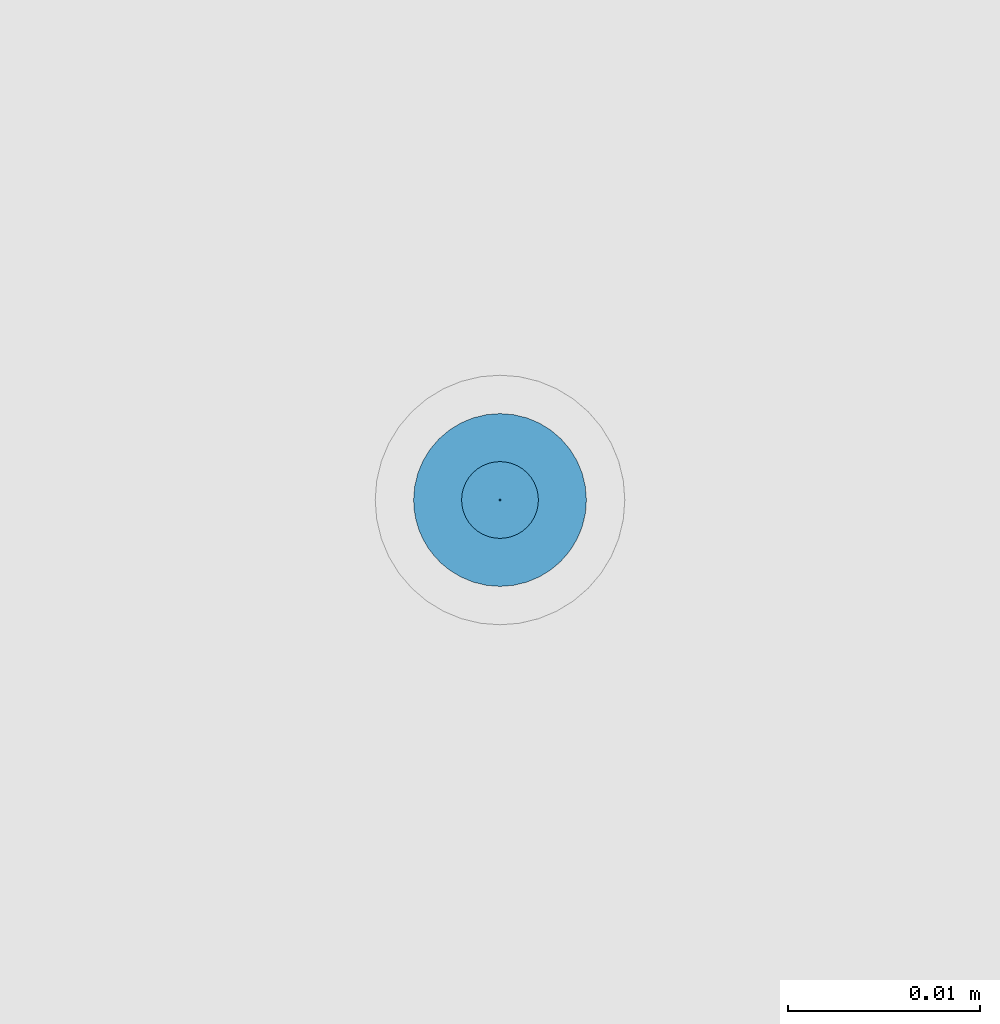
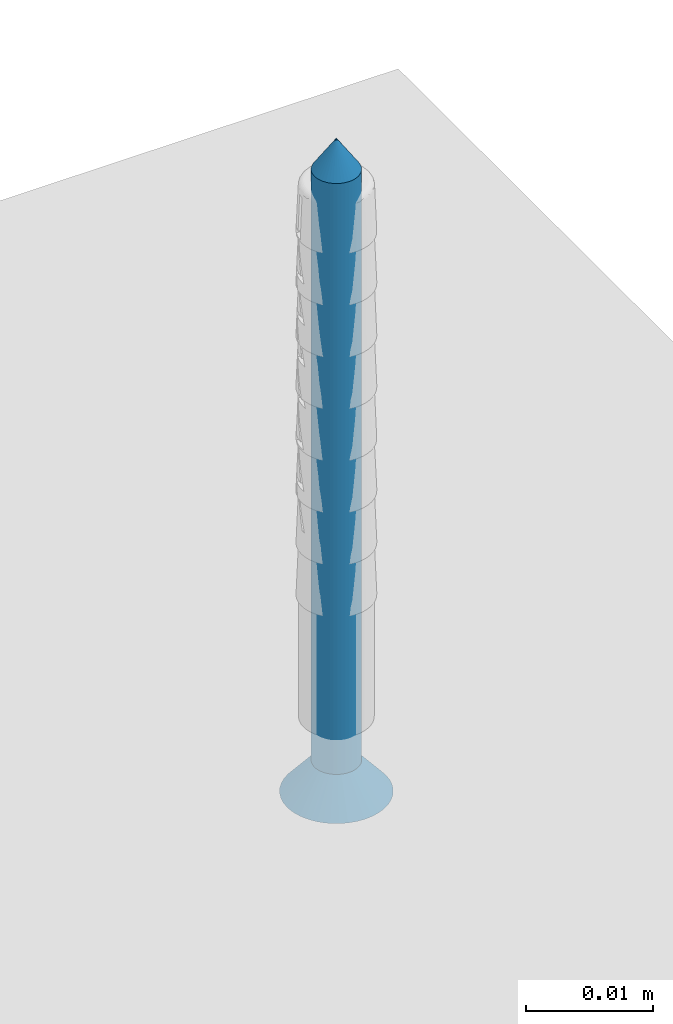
# One storey, part 68 of 92: 1 wall.
"""IFC2X3 building model written with IfcOpenShell, lengths in millimetres."""

from ifc_helpers import new_model, si_unit, frame, origin_with_axes, place, context, subcontext, project, spatial, faceted_brep, material, type_object, element, save


model = new_model("IFC2X3")

# Units and contexts
model_context = context("Model", 3, world=origin_with_axes())
body_context = subcontext(model_context, "Body", "Model", "MODEL_VIEW")
ifc_project = project(units=[si_unit("LENGTHUNIT", "METRE", prefix="MILLI"), si_unit("AREAUNIT", "SQUARE_METRE"), si_unit("VOLUMEUNIT", "CUBIC_METRE")], contexts=[model_context])

# Site, building, storey
site_placement = place(None, origin_with_axes())
site = spatial("IfcSite", under=ifc_project, at=site_placement, Name="Default Site", CompositionType="ELEMENT")
building_placement = place(site_placement, origin_with_axes())
building = spatial("IfcBuilding", under=site, at=building_placement, Name="Default Building", CompositionType="ELEMENT")
storey_placement = place(building_placement, origin_with_axes())
storey = spatial("IfcBuildingStorey", under=building, at=storey_placement, Name="Default Building Storey", CompositionType="ELEMENT", Elevation=0.0)

# Wall
ifc_material = material(Name="Default")
wall_type = type_object("IfcWallType", Name="Kołek rozporowy min. fi 6", PredefinedType="NOTDEFINED")
wall_placement = place(storey_placement, frame((3530.2813105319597, 3055.5457902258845, 2570.0054142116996), z_axis=(5.273559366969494e-16, -2.122374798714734e-31, -1.0), x_axis=(4.0245584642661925e-16, 1.0, 0.0)))
element("IfcWall", 1, at=wall_placement, inside=storey, type_object=wall_type, material=ifc_material, Name="Kołek rozporowy min. fi 6", context=body_context, shape_type="Brep", body=[
    faceted_brep([(-1438.2587671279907, -3452.579259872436, -0.46425670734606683), (-1435.7895851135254, -3452.970266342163, -3.464256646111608), (-1435.8141422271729, -3453.2833099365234, -3.464256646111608), (-1438.3141994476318, -3453.2833099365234, -0.46425670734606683), (-1438.093900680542, -3451.892614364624, -0.46425670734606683), (-1435.7162714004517, -3452.6650905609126, -3.464256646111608), (-1437.8236532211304, -3451.240301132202, -0.46425670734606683), (-1435.5961084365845, -3452.3751735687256, -3.464256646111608), (-1437.4547004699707, -3450.6382942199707, -0.46425670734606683), (-1435.4321956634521, -3452.107667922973, -3.464256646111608), (-1436.9961023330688, -3450.101137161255, -0.46425670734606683), (-1435.22834777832, -3451.8690109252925, -3.464256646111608), (-1436.4591836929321, -3449.642658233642, -0.46425670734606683), (-1434.9896907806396, -3451.665163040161, -3.464256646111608), (-1435.8570575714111, -3449.2735862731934, -0.46425670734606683), (-1434.7221851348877, -3451.501131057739, -3.464256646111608), (-1435.2047443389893, -3449.0034580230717, -0.46425670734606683), (-1434.4321489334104, -3451.381206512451, -3.464256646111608), (-1434.5180988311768, -3448.838710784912, -0.46425670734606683), (-1434.1269731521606, -3451.307773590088, -3.464256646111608), (-1433.8141679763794, -3448.7831592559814, -0.46425670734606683), (-1433.8141679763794, -3451.28321647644, -3.464256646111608), (-1433.110237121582, -3448.838710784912, -0.46425670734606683), (-1433.5012435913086, -3451.307773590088, -3.464256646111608), (-1432.4235916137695, -3449.0034580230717, -0.46425670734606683), (-1433.1960678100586, -3451.381206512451, -3.464256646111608), (-1431.771159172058, -3449.2735862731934, -0.46425670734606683), (-1432.9061508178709, -3451.501131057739, -3.464256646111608), (-1431.1691522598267, -3449.642658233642, -0.46425670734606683), (-1432.6385259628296, -3451.665163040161, -3.464256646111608), (-1430.6321144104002, -3450.101137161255, -0.46425670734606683), (-1432.3999881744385, -3451.8690109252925, -3.464256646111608), (-1430.1735162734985, -3450.6382942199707, -0.46425670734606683), (-1432.1961402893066, -3452.107667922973, -3.464256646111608), (-1429.8045635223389, -3451.240301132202, -0.46425670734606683), (-1432.0321083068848, -3452.3751735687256, -3.464256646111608), (-1429.5344352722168, -3451.892614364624, -0.46425670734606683), (-1431.9120645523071, -3452.6650905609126, -3.464256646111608), (-1431.814193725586, -3453.2833099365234, -3.464256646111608), (-1429.314136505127, -3453.2833099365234, -0.46425670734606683), (-1429.369568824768, -3453.9871215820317, -0.46425670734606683), (-1431.8387508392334, -3453.5961151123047, -3.464256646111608), (-1431.8387508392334, -3452.970266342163, -3.464256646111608), (-1429.369568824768, -3452.579259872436, -0.46425670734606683), (-1429.5344352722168, -3454.6737670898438, -0.46425670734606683), (-1431.9120645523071, -3453.9012908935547, -3.464256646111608), (-1429.8045635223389, -3455.3260803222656, -0.46425670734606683), (-1432.0321083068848, -3454.191207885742, -3.464256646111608), (-1430.1735162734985, -3455.9283256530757, -0.46425670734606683), (-1432.1961402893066, -3454.458713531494, -3.464256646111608), (-1430.6321144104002, -3456.465244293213, -0.46425670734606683), (-1432.3999881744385, -3454.6973705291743, -3.464256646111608), (-1431.1691522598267, -3456.923723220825, -0.46425670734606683), (-1432.6385259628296, -3454.9012184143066, -3.464256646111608), (-1431.771159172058, -3457.2927951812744, -0.46425670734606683), (-1432.9061508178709, -3455.065250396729, -3.464256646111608), (-1432.4235916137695, -3457.562923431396, -0.46425670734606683), (-1433.1960678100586, -3455.1854133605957, -3.464256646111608), (-1433.110237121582, -3457.7279090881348, -0.46425670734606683), (-1433.5012435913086, -3455.25860786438, -3.464256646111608), (-1433.8141679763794, -3457.7832221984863, -0.46425670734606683), (-1433.8141679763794, -3455.283164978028, -3.464256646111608), (-1434.1269731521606, -3455.25860786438, -3.464256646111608), (-1434.3430995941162, -3457.7519893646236, -0.46425670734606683), (-1434.4321489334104, -3455.1854133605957, -3.464256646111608), (-1434.8646402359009, -3457.6590061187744, -0.46425670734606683), (-1435.3716373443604, -3457.504987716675, -0.46425670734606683), (-1434.7221851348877, -3455.065250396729, -3.464256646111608), (-1435.8570575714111, -3457.2927951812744, -0.46425670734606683), (-1436.3142251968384, -3457.024812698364, -0.46425670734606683), (-1435.22834777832, -3454.6973705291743, -3.464256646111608), (-1434.9896907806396, -3454.9012184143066, -3.464256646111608), (-1436.7367029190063, -3456.705093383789, -0.46425670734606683), (-1437.118649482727, -3456.337928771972, -0.46425670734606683), (-1435.4321956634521, -3454.458713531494, -3.464256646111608), (-1437.4547004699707, -3455.9283256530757, -0.46425670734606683), (-1437.8236532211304, -3455.3260803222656, -0.46425670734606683), (-1435.5961084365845, -3454.191207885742, -3.464256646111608), (-1438.093900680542, -3454.6737670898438, -0.46425670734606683), (-1435.7162714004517, -3453.9012908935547, -3.464256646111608), (-1438.2587671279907, -3453.9871215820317, -0.46425670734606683), (-1435.7895851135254, -3453.5961151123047, -3.464256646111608), (-1433.8141679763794, -3455.7831287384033, 0.20073754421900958), (-1434.2052936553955, -3455.752372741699, 0.20073754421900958), (-1434.5866441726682, -3455.6608200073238, 0.20073754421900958), (-1434.9491596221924, -3455.510854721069, 0.20073754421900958), (-1435.2836608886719, -3455.305814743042, 0.20073754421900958), (-1435.581922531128, -3455.0509452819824, 0.20073754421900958), (-1435.836672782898, -3454.7526836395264, 0.20073754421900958), (-1436.0417127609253, -3454.418182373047, 0.20073754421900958), (-1436.1917972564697, -3454.0557861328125, 0.20073754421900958), (-1436.2833499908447, -3453.6743164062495, 0.20073754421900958), (-1436.3141059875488, -3453.2833099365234, 0.20073754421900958), (-1436.2833499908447, -3452.8920650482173, 0.20073754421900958), (-1436.1917972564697, -3452.5105953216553, 0.20073754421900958), (-1436.0417127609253, -3452.148199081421, 0.20073754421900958), (-1435.836672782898, -3451.8136978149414, 0.20073754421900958), (-1435.581922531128, -3451.5154361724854, 0.20073754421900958), (-1435.2836608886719, -3451.260566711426, 0.20073754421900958), (-1434.9491596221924, -3451.0557651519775, 0.20073754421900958), (-1434.5866441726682, -3450.905561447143, 0.20073754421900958), (-1433.8141679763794, -3450.7832527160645, 0.20073754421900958), (-1433.4230422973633, -3450.8140087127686, 0.20073754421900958), (-1434.2052936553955, -3450.8140087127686, 0.20073754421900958), (-1433.0415725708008, -3450.905561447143, 0.20073754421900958), (-1432.6791763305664, -3451.0557651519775, 0.20073754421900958), (-1432.344675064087, -3451.260566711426, 0.20073754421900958), (-1432.0464134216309, -3451.5154361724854, 0.20073754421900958), (-1431.7916631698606, -3451.8136978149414, 0.20073754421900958), (-1431.5866231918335, -3452.148199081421, 0.20073754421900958), (-1431.436538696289, -3452.5105953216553, 0.20073754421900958), (-1431.344985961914, -3452.8920650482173, 0.20073754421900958), (-1431.3141107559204, -3453.2833099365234, 0.20073754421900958), (-1431.344985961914, -3453.6743164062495, 0.20073754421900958), (-1431.436538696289, -3454.0557861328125, 0.20073754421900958), (-1431.5866231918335, -3454.418182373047, 0.20073754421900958), (-1431.7916631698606, -3454.7526836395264, 0.20073754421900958), (-1432.0464134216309, -3455.0509452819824, 0.20073754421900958), (-1432.344675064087, -3455.305814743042, 0.20073754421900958), (-1432.6791763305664, -3455.510854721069, 0.20073754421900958), (-1433.0415725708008, -3455.6608200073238, 0.20073754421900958), (-1433.4230422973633, -3455.752372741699, 0.20073754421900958), (-1435.8141422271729, -3453.2833099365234, -60.464255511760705), (-1435.7895851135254, -3452.970266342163, -60.464255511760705), (-1433.8141679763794, -3453.2833099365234, -63.46425414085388), (-1435.7162714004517, -3452.6650905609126, -60.464255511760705), (-1435.5961084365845, -3452.3751735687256, -60.464255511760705), (-1435.4321956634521, -3452.107667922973, -60.464255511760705), (-1435.22834777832, -3451.8690109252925, -60.464255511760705), (-1434.9896907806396, -3451.665163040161, -60.464255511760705), (-1434.7221851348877, -3451.501131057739, -60.464255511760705), (-1434.4321489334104, -3451.381206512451, -60.464255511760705), (-1434.1269731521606, -3451.307773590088, -60.464255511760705), (-1433.8141679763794, -3451.28321647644, -60.464255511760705), (-1433.5012435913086, -3451.307773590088, -60.464255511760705), (-1433.1960678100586, -3451.381206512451, -60.464255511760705), (-1432.9061508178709, -3451.501131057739, -60.464255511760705), (-1432.6385259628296, -3451.665163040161, -60.464255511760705), (-1432.3999881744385, -3451.8690109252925, -60.464255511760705), (-1432.1961402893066, -3452.107667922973, -60.464255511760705), (-1432.0321083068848, -3452.3751735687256, -60.464255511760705), (-1431.9120645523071, -3452.6650905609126, -60.464255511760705), (-1431.8387508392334, -3452.970266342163, -60.464255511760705), (-1431.814193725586, -3453.2833099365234, -60.464255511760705), (-1431.8387508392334, -3453.5961151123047, -60.464255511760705), (-1431.9120645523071, -3453.9012908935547, -60.464255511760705), (-1432.0321083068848, -3454.191207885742, -60.464255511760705), (-1432.1961402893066, -3454.458713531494, -60.464255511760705), (-1432.3999881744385, -3454.6973705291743, -60.464255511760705), (-1432.6385259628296, -3454.9012184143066, -60.464255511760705), (-1432.9061508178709, -3455.065250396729, -60.464255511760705), (-1433.1960678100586, -3455.1854133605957, -60.464255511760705), (-1433.5012435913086, -3455.25860786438, -60.464255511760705), (-1433.8141679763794, -3455.283164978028, -60.464255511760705), (-1434.1269731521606, -3455.25860786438, -60.464255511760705), (-1434.4321489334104, -3455.1854133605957, -60.464255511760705), (-1434.7221851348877, -3455.065250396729, -60.464255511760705), (-1434.9896907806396, -3454.9012184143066, -60.464255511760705), (-1435.22834777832, -3454.6973705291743, -60.464255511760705), (-1435.4321956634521, -3454.458713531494, -60.464255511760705), (-1435.5961084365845, -3454.191207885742, -60.464255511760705), (-1435.7162714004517, -3453.9012908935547, -60.464255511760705), (-1435.7895851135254, -3453.5961151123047, -60.464255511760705), (-1436.1917972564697, -3454.0557861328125, 0.049999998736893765), (-1436.0417127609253, -3454.418182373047, 0.049999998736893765), (-1435.836672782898, -3454.7526836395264, 0.049999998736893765), (-1435.581922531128, -3455.0509452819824, 0.049999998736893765), (-1435.2836608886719, -3455.305814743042, 0.049999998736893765), (-1434.9491596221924, -3455.510854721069, 0.049999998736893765), (-1434.5866441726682, -3455.6608200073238, 0.049999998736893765), (-1434.2052936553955, -3455.752372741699, 0.049999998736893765), (-1433.8141679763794, -3455.7831287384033, 0.049999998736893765), (-1433.4230422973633, -3455.752372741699, 0.049999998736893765), (-1433.0415725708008, -3455.6608200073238, 0.049999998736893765), (-1432.6791763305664, -3455.510854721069, 0.049999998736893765), (-1432.344675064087, -3455.305814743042, 0.049999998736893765), (-1432.0464134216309, -3455.0509452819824, 0.049999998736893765), (-1431.7916631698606, -3454.7526836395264, 0.049999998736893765), (-1431.5866231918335, -3454.418182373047, 0.049999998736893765), (-1431.436538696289, -3454.0557861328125, 0.049999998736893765), (-1431.344985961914, -3453.6743164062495, 0.049999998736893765), (-1431.3141107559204, -3453.2833099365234, 0.049999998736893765), (-1431.344985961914, -3452.8920650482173, 0.049999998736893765), (-1431.436538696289, -3452.5105953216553, 0.049999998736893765), (-1431.5866231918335, -3452.148199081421, 0.049999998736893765), (-1431.7916631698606, -3451.8136978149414, 0.049999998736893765), (-1432.0464134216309, -3451.5154361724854, 0.049999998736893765), (-1432.344675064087, -3451.260566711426, 0.049999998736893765), (-1432.6791763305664, -3451.0557651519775, 0.049999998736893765), (-1433.0415725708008, -3450.905561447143, 0.049999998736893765), (-1433.4230422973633, -3450.8140087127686, 0.049999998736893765), (-1433.8141679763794, -3450.7832527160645, 0.049999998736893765), (-1434.2052936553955, -3450.8140087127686, 0.049999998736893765), (-1434.5866441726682, -3450.905561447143, 0.049999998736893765), (-1434.9491596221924, -3451.0557651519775, 0.049999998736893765), (-1435.2836608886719, -3451.260566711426, 0.049999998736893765), (-1435.581922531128, -3451.5154361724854, 0.049999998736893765), (-1435.836672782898, -3451.8136978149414, 0.049999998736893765), (-1436.0417127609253, -3452.148199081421, 0.049999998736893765), (-1436.1917972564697, -3452.5105953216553, 0.049999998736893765), (-1436.2833499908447, -3452.8920650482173, 0.049999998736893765), (-1436.3141059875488, -3453.2833099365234, 0.049999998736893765), (-1436.2833499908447, -3453.6743164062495, 0.049999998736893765), (-1434.3141317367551, -3453.7832736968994, 0.049999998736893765), (-1435.8141422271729, -3453.7832736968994, 0.049999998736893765), (-1435.8141422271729, -3452.7831077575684, 0.049999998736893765), (-1434.3141317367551, -3452.7831077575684, 0.049999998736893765), (-1434.3141317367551, -3451.28321647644, 0.049999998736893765), (-1433.3142042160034, -3451.28321647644, 0.049999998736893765), (-1433.3142042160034, -3452.7831077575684, 0.049999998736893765), (-1431.814193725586, -3452.7831077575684, 0.049999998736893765), (-1431.814193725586, -3453.7832736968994, 0.049999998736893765), (-1433.3142042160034, -3453.7832736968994, 0.049999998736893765), (-1433.3142042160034, -3455.283164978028, 0.049999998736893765), (-1434.3141317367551, -3455.283164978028, 0.049999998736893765), (-1435.8141422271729, -3452.7831077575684, -1.799262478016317), (-1435.8141422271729, -3453.7832736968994, -1.799262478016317), (-1434.3141317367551, -3453.7832736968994, -1.799262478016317), (-1434.3141317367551, -3455.283164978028, -1.799262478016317), (-1433.3142042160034, -3455.283164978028, -1.799262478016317), (-1433.3142042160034, -3453.7832736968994, -1.799262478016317), (-1431.814193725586, -3453.7832736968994, -1.799262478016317), (-1431.814193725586, -3452.7831077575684, -1.799262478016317), (-1433.3142042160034, -3452.7831077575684, -1.799262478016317), (-1433.3142042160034, -3451.28321647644, -1.799262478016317), (-1434.3141317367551, -3451.28321647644, -1.799262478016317), (-1434.3141317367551, -3452.7831077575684, -1.799262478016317)], [[[0, 1, 2, 3]], [[1, 0, 4, 5]], [[5, 4, 6, 7]], [[8, 9, 7, 6]], [[9, 8, 10, 11]], [[12, 13, 11, 10]], [[13, 12, 14, 15]], [[15, 14, 16, 17]], [[18, 19, 17, 16]], [[19, 18, 20, 21]], [[22, 23, 21, 20]], [[23, 22, 24, 25]], [[25, 24, 26, 27]], [[28, 29, 27, 26]], [[29, 28, 30, 31]], [[32, 33, 31, 30]], [[33, 32, 34, 35]], [[35, 34, 36, 37]], [[38, 39, 40, 41]], [[42, 43, 39, 38]], [[43, 42, 37, 36]], [[41, 40, 44, 45]], [[45, 44, 46, 47]], [[48, 49, 47, 46]], [[49, 48, 50, 51]], [[52, 53, 51, 50]], [[53, 52, 54, 55]], [[55, 54, 56, 57]], [[58, 59, 57, 56]], [[59, 58, 60, 61]], [[62, 60, 63]], [[62, 61, 60]], [[63, 64, 62]], [[63, 65, 64]], [[64, 65, 66]], [[66, 67, 64]], [[66, 68, 67]], [[69, 70, 71]], [[69, 72, 70]], [[71, 68, 69]], [[71, 67, 68]], [[72, 73, 70]], [[74, 73, 75]], [[74, 70, 73]], [[74, 75, 76, 77]], [[77, 76, 78, 79]], [[80, 81, 79, 78]], [[81, 80, 3, 2]], [[63, 82, 83]], [[63, 60, 82]], [[83, 65, 63]], [[83, 84, 65]], [[84, 68, 66]], [[84, 85, 68]], [[66, 65, 84]], [[69, 85, 86]], [[69, 68, 85]], [[87, 73, 72]], [[72, 86, 87]], [[72, 69, 86]], [[75, 87, 88]], [[75, 73, 87]], [[75, 88, 89, 76]], [[76, 89, 90, 78]], [[91, 80, 78, 90]], [[80, 91, 92, 3]], [[93, 0, 3, 92]], [[0, 93, 94, 4]], [[4, 94, 95, 6]], [[96, 8, 6, 95]], [[8, 96, 97, 10]], [[98, 12, 10, 97]], [[12, 98, 99, 14]], [[14, 99, 100, 16]], [[20, 101, 102, 22]], [[18, 103, 101, 20]], [[103, 18, 16, 100]], [[22, 102, 104, 24]], [[24, 104, 105, 26]], [[106, 28, 26, 105]], [[28, 106, 107, 30]], [[108, 32, 30, 107]], [[32, 108, 109, 34]], [[34, 109, 110, 36]], [[111, 43, 36, 110]], [[43, 111, 112, 39]], [[113, 40, 39, 112]], [[40, 113, 114, 44]], [[44, 114, 115, 46]], [[116, 48, 46, 115]], [[48, 116, 117, 50]], [[118, 52, 50, 117]], [[52, 118, 119, 54]], [[54, 119, 120, 56]], [[121, 58, 56, 120]], [[58, 121, 82, 60]], [[122, 123, 124]], [[123, 125, 124]], [[125, 126, 124]], [[124, 126, 127]], [[127, 128, 124]], [[124, 128, 129]], [[129, 130, 124]], [[130, 131, 124]], [[124, 131, 132]], [[132, 133, 124]], [[124, 133, 134]], [[134, 135, 124]], [[135, 136, 124]], [[124, 136, 137]], [[137, 138, 124]], [[124, 138, 139]], [[139, 140, 124]], [[140, 141, 124]], [[124, 141, 142]], [[142, 143, 124]], [[124, 143, 144]], [[144, 145, 124]], [[145, 146, 124]], [[124, 146, 147]], [[147, 148, 124]], [[124, 148, 149]], [[149, 150, 124]], [[150, 151, 124]], [[124, 151, 152]], [[152, 153, 124]], [[124, 153, 154]], [[154, 155, 124]], [[155, 156, 124]], [[124, 156, 157]], [[157, 158, 124]], [[124, 158, 159]], [[159, 160, 124]], [[160, 161, 124]], [[124, 161, 162]], [[124, 162, 122]], [[1, 123, 122, 2]], [[123, 1, 5, 125]], [[125, 5, 7, 126]], [[9, 127, 126, 7]], [[127, 9, 11, 128]], [[13, 129, 128, 11]], [[129, 13, 15, 130]], [[130, 15, 17, 131]], [[19, 132, 131, 17]], [[132, 19, 21, 133]], [[23, 134, 133, 21]], [[134, 23, 25, 135]], [[135, 25, 27, 136]], [[29, 137, 136, 27]], [[137, 29, 31, 138]], [[33, 139, 138, 31]], [[139, 33, 35, 140]], [[140, 35, 37, 141]], [[143, 38, 41, 144]], [[142, 42, 38, 143]], [[42, 142, 141, 37]], [[144, 41, 45, 145]], [[145, 45, 47, 146]], [[49, 147, 146, 47]], [[147, 49, 51, 148]], [[53, 149, 148, 51]], [[149, 53, 55, 150]], [[150, 55, 57, 151]], [[59, 152, 151, 57]], [[152, 59, 61, 153]], [[62, 154, 153, 61]], [[154, 62, 64, 155]], [[155, 64, 67, 156]], [[71, 157, 156, 67]], [[157, 71, 70, 158]], [[74, 159, 158, 70]], [[159, 74, 77, 160]], [[160, 77, 79, 161]], [[81, 162, 161, 79]], [[162, 81, 2, 122]], [[163, 164, 165, 166, 167, 168, 169, 170, 171, 172, 173, 174, 175, 176, 177, 178, 179, 180, 181, 182, 183, 184, 185, 186, 187, 188, 189, 190, 191, 192, 193, 194, 195, 196, 197, 198, 199, 200, 201, 202], [203, 204, 205, 206, 207, 208, 209, 210, 211, 212, 213, 214]], [[113, 112, 181, 180]], [[180, 179, 114, 113]], [[179, 178, 115, 114]], [[116, 115, 178, 177]], [[177, 176, 117, 116]], [[118, 117, 176, 175]], [[175, 174, 119, 118]], [[174, 173, 120, 119]], [[121, 120, 173, 172]], [[172, 171, 82, 121]], [[83, 82, 171, 170]], [[170, 169, 84, 83]], [[169, 168, 85, 84]], [[86, 85, 168, 167]], [[167, 166, 87, 86]], [[88, 87, 166, 165]], [[165, 164, 89, 88]], [[164, 163, 90, 89]], [[201, 200, 93, 92]], [[202, 201, 92, 91]], [[91, 90, 163, 202]], [[200, 199, 94, 93]], [[199, 198, 95, 94]], [[96, 95, 198, 197]], [[197, 196, 97, 96]], [[98, 97, 196, 195]], [[195, 194, 99, 98]], [[194, 193, 100, 99]], [[103, 100, 193, 192]], [[192, 191, 101, 103]], [[102, 101, 191, 190]], [[190, 189, 104, 102]], [[189, 188, 105, 104]], [[106, 105, 188, 187]], [[187, 186, 107, 106]], [[108, 107, 186, 185]], [[185, 184, 109, 108]], [[184, 183, 110, 109]], [[111, 110, 183, 182]], [[182, 181, 112, 111]], [[215, 216, 217, 218, 219, 220, 221, 222, 223, 224, 225, 226]], [[224, 208, 207, 225]], [[225, 207, 206, 226]], [[226, 206, 205, 215]], [[215, 205, 204, 216]], [[216, 204, 203, 217]], [[217, 203, 214, 218]], [[218, 214, 213, 219]], [[219, 213, 212, 220]], [[220, 212, 211, 221]], [[221, 211, 210, 222]], [[222, 210, 209, 223]], [[223, 209, 208, 224]]]),
])

save(model, "model.ifc")
